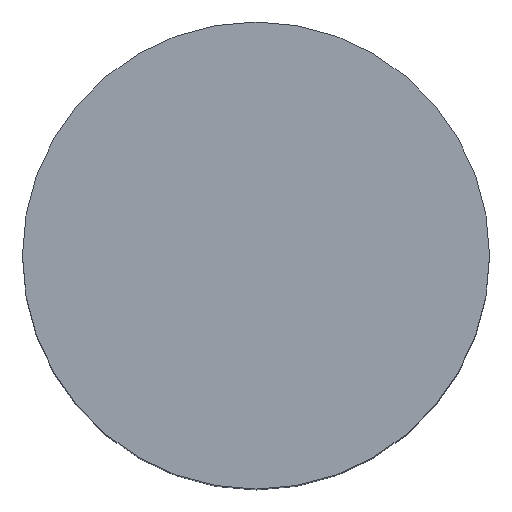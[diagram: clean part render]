
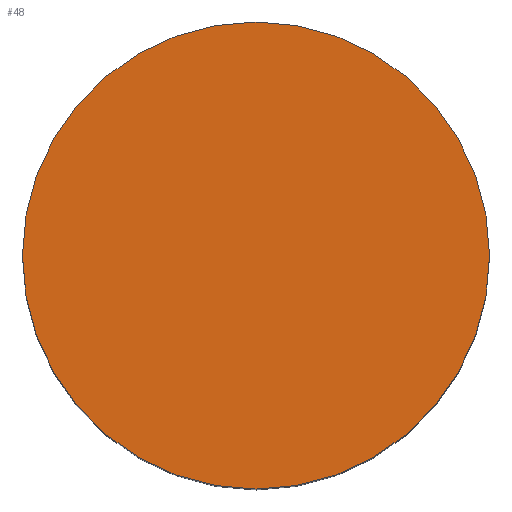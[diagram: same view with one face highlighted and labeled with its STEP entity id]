
A CAD part, top view. The second image highlights one B-rep face of the part: STEP entity #48.
In plain terms, the highlighted planar face has unit normal (0, 0, 1).
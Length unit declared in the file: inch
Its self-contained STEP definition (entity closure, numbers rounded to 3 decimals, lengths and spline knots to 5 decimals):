
#48 = ADVANCED_FACE( '', ( #92 ), #93, .T. );
#92 = FACE_OUTER_BOUND( '', #137, .T. );
#93 = PLANE( '', #138 );
#137 = EDGE_LOOP( '', ( #176 ) );
#138 = AXIS2_PLACEMENT_3D( '', #177, #178, #179 );
#176 = ORIENTED_EDGE( '', *, *, #216, .F. );
#177 = CARTESIAN_POINT( '', ( -4.26016, 0.07697, 0.182 ) );
#178 = DIRECTION( '', ( 0., 0., 1. ) );
#179 = DIRECTION( '', ( 1., 0., 0. ) );
#216 = EDGE_CURVE( '', #236, #236, #237, .T. );
#236 = VERTEX_POINT( '', #259 );
#237 = CIRCLE( '', #260, 0.059 );
#259 = CARTESIAN_POINT( '', ( -4.31916, 0.07697, 0.182 ) );
#260 = AXIS2_PLACEMENT_3D( '', #282, #283, #284 );
#282 = CARTESIAN_POINT( '', ( -4.26016, 0.07697, 0.182 ) );
#283 = DIRECTION( '', ( 0., 0., -1. ) );
#284 = DIRECTION( '', ( -1., 0., 0. ) );
